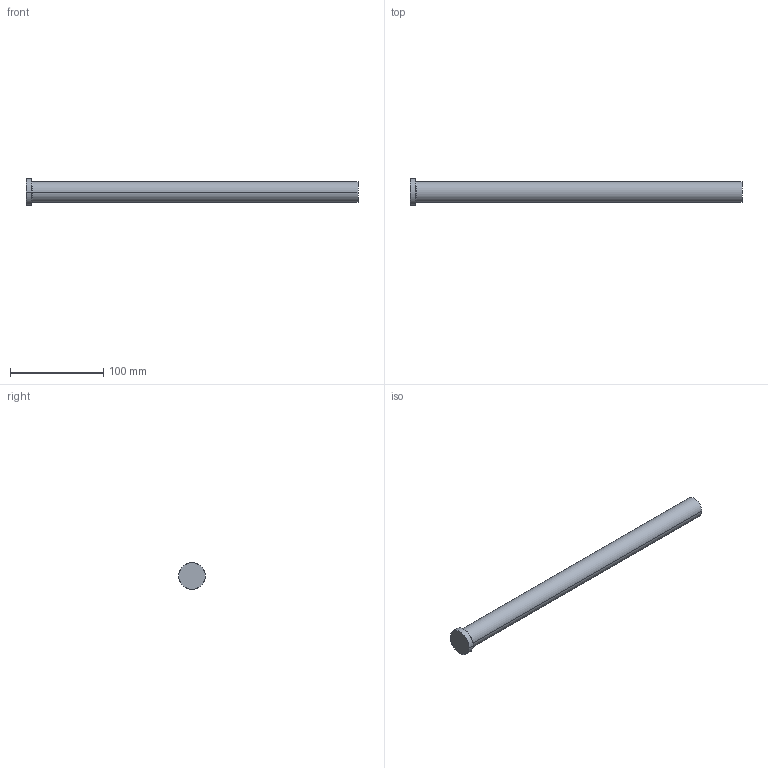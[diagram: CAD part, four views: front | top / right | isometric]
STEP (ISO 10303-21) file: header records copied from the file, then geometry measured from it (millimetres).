
FILE_DESCRIPTION (( 'STEP AP214' ), '1' );
FILE_NAME ('P45-14.STEP', '2020-03-12T12:23:01', ( '' ), ( '' ), 'SwSTEP 2.0', 'SolidWorks 2018', '' );
FILE_SCHEMA (( 'AUTOMOTIVE_DESIGN' ));
Length unit declared in the file: inch
Products named in the file (1): P45-14
Bounding box: 355.6 x 28.57 x 28.57 mm (x, y, z)
Volume: 139416.2 mm3; surface area: 26190.7 mm2
Topology: 1 solids, 1 shells, 13 faces, 24 edges, 14 vertices
Faces by surface type: cone 4, cylinder 4, plane 3, torus 2
Entity records: 366 total; most frequent: DIRECTION 68, CARTESIAN_POINT 52, ORIENTED_EDGE 48, AXIS2_PLACEMENT_3D 30, EDGE_CURVE 24, CIRCLE 16, EDGE_LOOP 14, VERTEX_POINT 14
